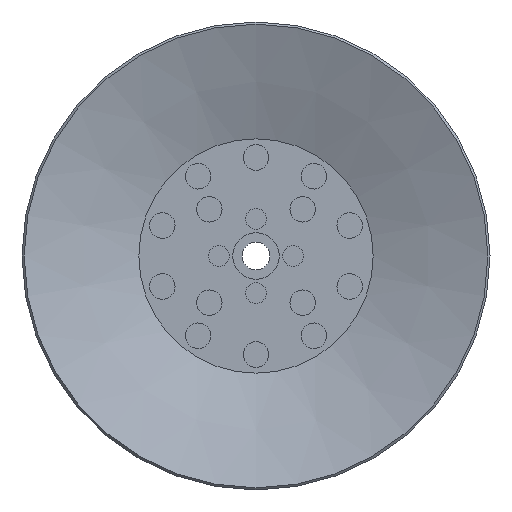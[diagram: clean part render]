
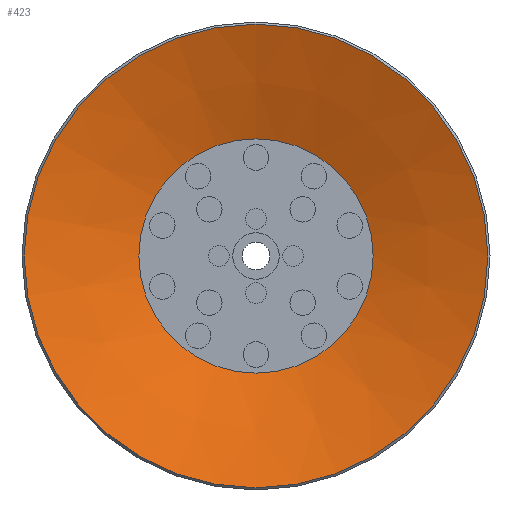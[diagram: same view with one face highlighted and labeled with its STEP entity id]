
A CAD part, front view. The second image highlights one B-rep face of the part: STEP entity #423.
In plain terms, the highlighted conical face has half-angle 70 degrees and reference radius 10 mm.
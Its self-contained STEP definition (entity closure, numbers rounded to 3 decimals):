
#423=ADVANCED_FACE('',(#858,#859),#860,.F.);
#858=FACE_BOUND('',#1462,.T.);
#859=FACE_OUTER_BOUND('',#1463,.T.);
#860=CONICAL_SURFACE('',#1464,10.0,1.222);
#1462=EDGE_LOOP('',(#2035));
#1463=EDGE_LOOP('',(#2036));
#1464=AXIS2_PLACEMENT_3D('',#2037,#2038,#2039);
#2035=ORIENTED_EDGE('',*,*,#2404,.T.);
#2036=ORIENTED_EDGE('',*,*,#2405,.F.);
#2037=CARTESIAN_POINT('',(0.0,0.,0.));
#2038=DIRECTION('',(0.0,0.,-1.0));
#2039=DIRECTION('',(0.0,1.0,0.));
#2404=EDGE_CURVE('',#2552,#2552,#2553,.T.);
#2405=EDGE_CURVE('',#2554,#2554,#2555,.T.);
#2552=VERTEX_POINT('',#2755);
#2553=CIRCLE('',#2756,5.055);
#2554=VERTEX_POINT('',#2757);
#2555=CIRCLE('',#2758,10.0);
#2755=CARTESIAN_POINT('',(0.0,-5.055,1.8));
#2756=AXIS2_PLACEMENT_3D('',#2919,#2920,#2921);
#2757=CARTESIAN_POINT('',(0.0,-10.0,0.));
#2758=AXIS2_PLACEMENT_3D('',#2922,#2923,#2924);
#2919=CARTESIAN_POINT('',(0.0,0.,1.8));
#2920=DIRECTION('',(0.0,0.,1.0));
#2921=DIRECTION('',(0.0,-1.0,0.));
#2922=CARTESIAN_POINT('',(0.0,0.,0.));
#2923=DIRECTION('',(0.0,0.,1.0));
#2924=DIRECTION('',(0.0,-1.0,0.));
